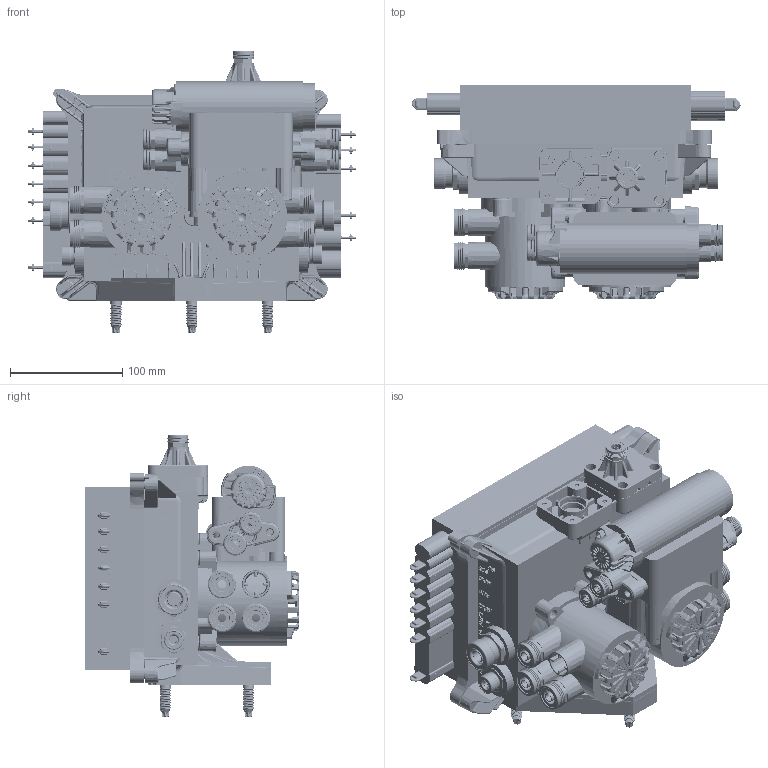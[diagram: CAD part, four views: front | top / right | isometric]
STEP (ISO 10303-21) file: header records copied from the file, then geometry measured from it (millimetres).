
FILE_DESCRIPTION((''),'2;1');
FILE_NAME('842_001_011_SIMP_ASM','2022-04-13T14:10:09',('kimberleyp'),('Haldex Brake Products'),'CREO PARAMETRIC BY PTC INC, 2018500','CREO PARAMETRIC BY PTC INC, 2018500','');
FILE_SCHEMA(('AUTOMOTIVE_DESIGN { 1 0 10303 214 1 1 1 1 }'));
Products named in the file (41): 027_5667_09_SIMP; 003_9972_09_SIMP_ASM; 051_5150_09; 032_5119_09; 032_5113_09; 003_9960_09_SIMP; 003_9960_09_SIMP_ASM; 004_0013_09_SIMP_ASM; 027_5537_09_SIMP_AF5; 003_9864_09_SIMP_AF5_ASM; 032_5151_09; 003_9980_09_SIMP_AF3_ASM; 027_5556_09_AF12; 003_9836_09_AF12_ASM; 003_9861_09_SIMP_AF3_ASM; 027_5560_09_SIMP; 003_9841_09_SIMP_ASM; 032_5150_09; 003_9983_09_SIMP_ASM; 027_5556_09; 003_9836_09_ASM; 003_9863_09_SIMP_ASM; 027_5545_19; 003_9853_19_ASM; 027_5551_19; 003_9913_19_ASM; 027_5552_19; 003_9855_19_ASM; 027_5555_09; 003_9912_09_ASM; 003_9851_09_ASM; 027_5610_09; 003_9989_09_ASM; 003_9917_09_ASM; 2330527; 003_9898_09_ASM; 2330529; 003_9899_09_ASM; 2330530; 003_9900_09_ASM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
Assembly tree (62 placements, depth 5):
  842_001_011_SIMP_ASM
    004_0013_09_SIMP_ASM
      003_9972_09_SIMP_ASM
        027_5667_09_SIMP
      051_5150_09  x3
      032_5119_09  x2
      032_5113_09  x2
      003_9960_09_SIMP_ASM
        003_9960_09_SIMP
    003_9861_09_SIMP_AF3_ASM
      003_9980_09_SIMP_AF3_ASM
        003_9864_09_SIMP_AF5_ASM
          027_5537_09_SIMP_AF5
        032_5151_09  x3
      003_9836_09_AF12_ASM
        027_5556_09_AF12
    003_9863_09_SIMP_ASM
      003_9983_09_SIMP_ASM
        003_9841_09_SIMP_ASM
          027_5560_09_SIMP
        032_5151_09  x3
        032_5150_09
      003_9836_09_ASM
        027_5556_09
    003_9851_09_ASM
      003_9913_19_ASM
        003_9853_19_ASM
          027_5545_19
        027_5551_19
      003_9855_19_ASM  x2
        027_5552_19
        032_5150_09
      003_9912_09_ASM
        027_5555_09
    003_9917_09_ASM
      003_9989_09_ASM
        027_5610_09
      032_5150_09
    003_9898_09_ASM
      2330527
    003_9899_09_ASM  x9
      2330529
    003_9900_09_ASM  x2
      2330530
Bounding box: 292.55 x 189.98 x 250.5 mm (x, y, z)
Volume: 5412387.1 mm3; surface area: 684899.1 mm2
Topology: 49 solids, 101 shells, 40631 faces, 109464 edges, 69952 vertices
Faces by surface type: plane 26090, cylinder 5523, bspline 3766, torus 2861, cone 1666, sphere 526, extrusion 199
Entity records: 902428 total; most frequent: CARTESIAN_POINT 291221, ORIENTED_EDGE 95282, DIRECTION 79273, PRESENTATION_STYLE_ASSIGNMENT 52455, STYLED_ITEM 51632, EDGE_CURVE 47641, CURVE_STYLE 46066, VERTEX_POINT 29987
